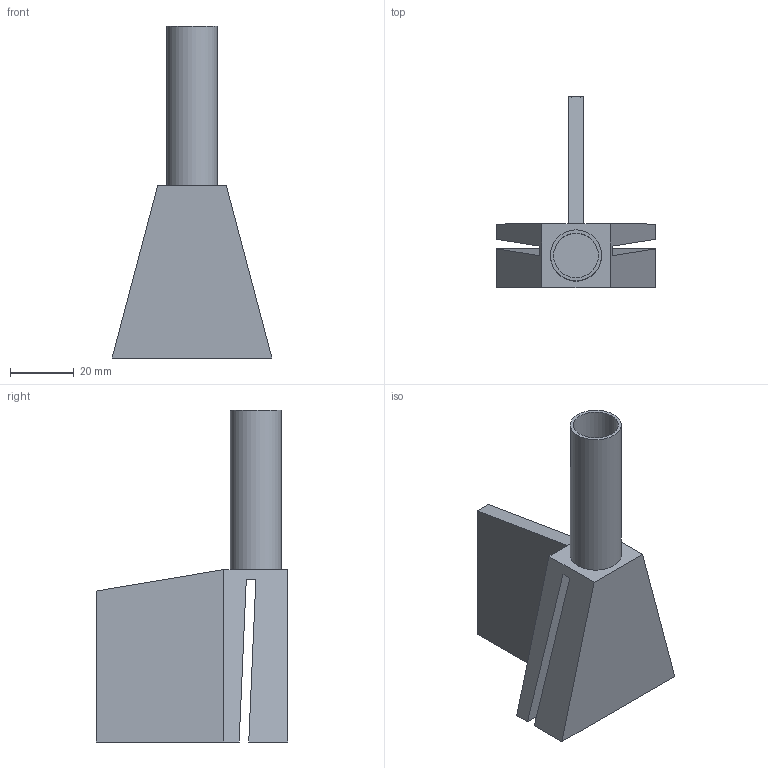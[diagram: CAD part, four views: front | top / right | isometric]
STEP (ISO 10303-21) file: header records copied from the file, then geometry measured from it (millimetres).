
FILE_DESCRIPTION(/* description */ (''),/* implementation_level */ '2;1');
FILE_NAME(/* name */ 'Tail Connector.step',/* time_stamp */ '2023-08-12T23:55:24+03:00',/* author */ (''),/* organization */ (''),/* preprocessor_version */ 'ST-DEVELOPER v20',/* originating_system */ 'Autodesk Translation Framework v12.9.0.99',/* authorisation */ '');
FILE_SCHEMA (('AUTOMOTIVE_DESIGN { 1 0 10303 214 3 1 1 }'));
Length unit declared in the file: millimetre
Products named in the file (1): tail connector (2)
Bounding box: 50 x 60 x 104 mm (x, y, z)
Volume: 39030.8 mm3; surface area: 24016.9 mm2
Topology: 1 solids, 1 shells, 23 faces, 55 edges, 36 vertices
Faces by surface type: plane 21, cylinder 2
Full cylindrical faces by diameter (mm): 14 x1, 16 x1
Entity records: 690 total; most frequent: CARTESIAN_POINT 115, ORIENTED_EDGE 110, DIRECTION 107, EDGE_CURVE 55, LINE 51, VECTOR 51, VERTEX_POINT 36, AXIS2_PLACEMENT_3D 28
